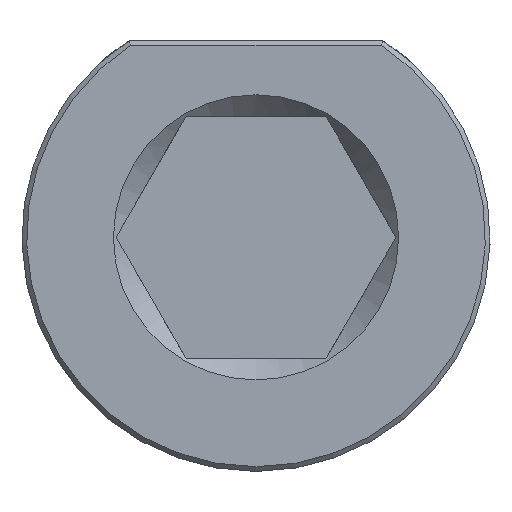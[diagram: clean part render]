
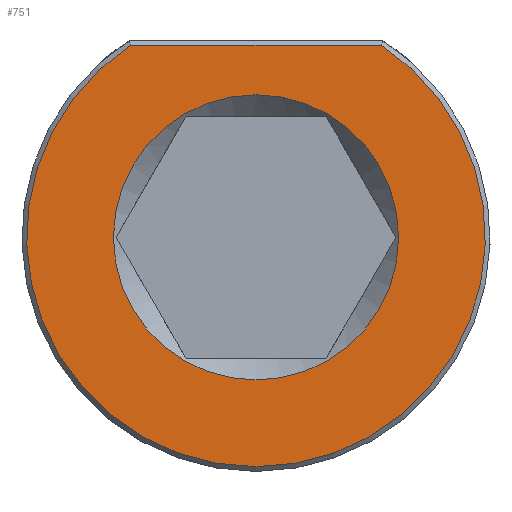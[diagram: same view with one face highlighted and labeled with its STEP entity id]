
A CAD part, front view. The second image highlights one B-rep face of the part: STEP entity #751.
In plain terms, the highlighted planar face has unit normal (0, -1, 0).
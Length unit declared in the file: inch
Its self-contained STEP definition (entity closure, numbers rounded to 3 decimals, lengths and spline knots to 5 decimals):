
#41=FACE_BOUND('',#138,.T.);
#46=CIRCLE('',#809,0.4825);
#48=CIRCLE('',#813,0.3);
#94=FACE_OUTER_BOUND('',#137,.T.);
#137=EDGE_LOOP('',(#509,#510));
#138=EDGE_LOOP('',(#511));
#194=LINE('',#1108,#250);
#250=VECTOR('',#891,0.3937);
#306=VERTEX_POINT('',#1106);
#307=VERTEX_POINT('',#1107);
#312=VERTEX_POINT('',#1130);
#382=EDGE_CURVE('',#306,#307,#194,.T.);
#387=EDGE_CURVE('',#307,#306,#46,.T.);
#391=EDGE_CURVE('',#312,#312,#48,.T.);
#509=ORIENTED_EDGE('',*,*,#382,.F.);
#510=ORIENTED_EDGE('',*,*,#387,.F.);
#511=ORIENTED_EDGE('',*,*,#391,.F.);
#729=PLANE('',#812);
#751=ADVANCED_FACE('',(#94,#41),#729,.T.);
#809=AXIS2_PLACEMENT_3D('',#1122,#897,#898);
#812=AXIS2_PLACEMENT_3D('',#1129,#905,#906);
#813=AXIS2_PLACEMENT_3D('',#1131,#907,#908);
#891=DIRECTION('',(1.,0.,0.));
#897=DIRECTION('center_axis',(0.,1.,0.));
#898=DIRECTION('ref_axis',(0.,0.,-1.));
#905=DIRECTION('center_axis',(0.,-1.,0.));
#906=DIRECTION('ref_axis',(0.,0.,-1.));
#907=DIRECTION('center_axis',(0.,-1.,0.));
#908=DIRECTION('ref_axis',(0.,0.,1.));
#1106=CARTESIAN_POINT('',(-0.2638,0.,0.404));
#1107=CARTESIAN_POINT('',(0.2638,0.,0.404));
#1108=CARTESIAN_POINT('',(0.24822,0.,0.404));
#1122=CARTESIAN_POINT('Origin',(0.,0.,0.));
#1129=CARTESIAN_POINT('Origin',(0.,0.,-0.25));
#1130=CARTESIAN_POINT('',(0.,0.,-0.3));
#1131=CARTESIAN_POINT('Origin',(0.,0.,0.));
